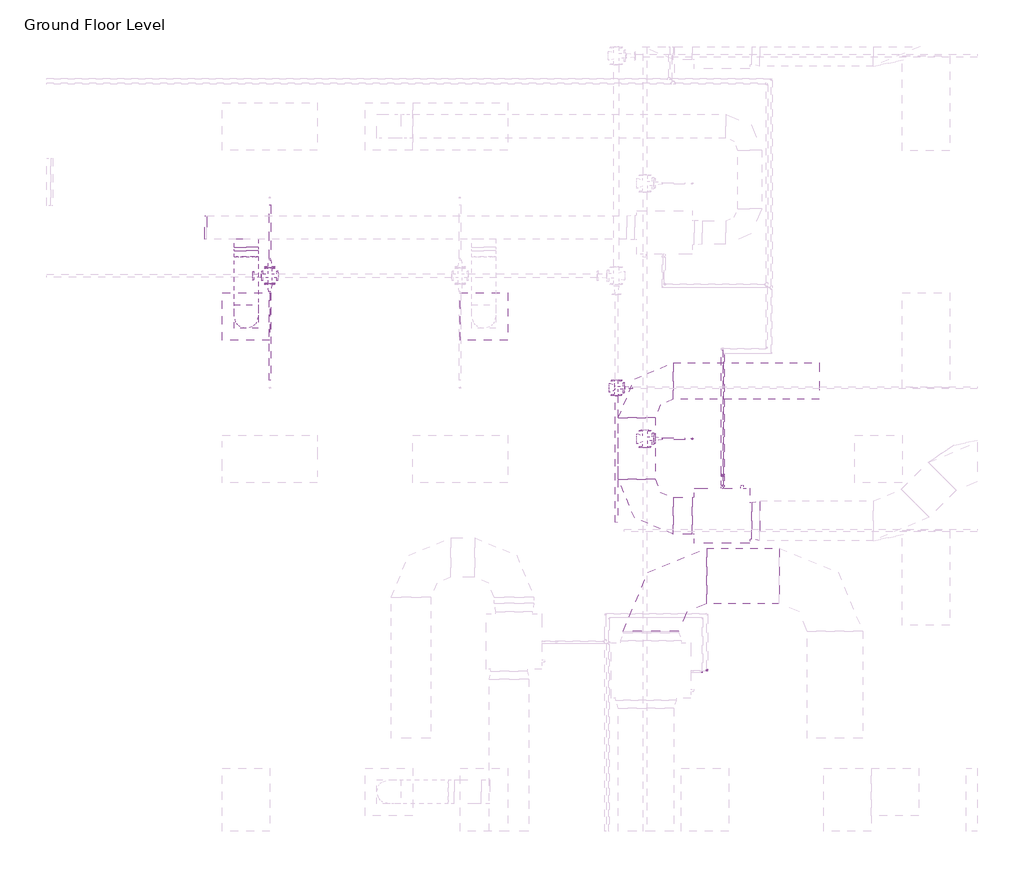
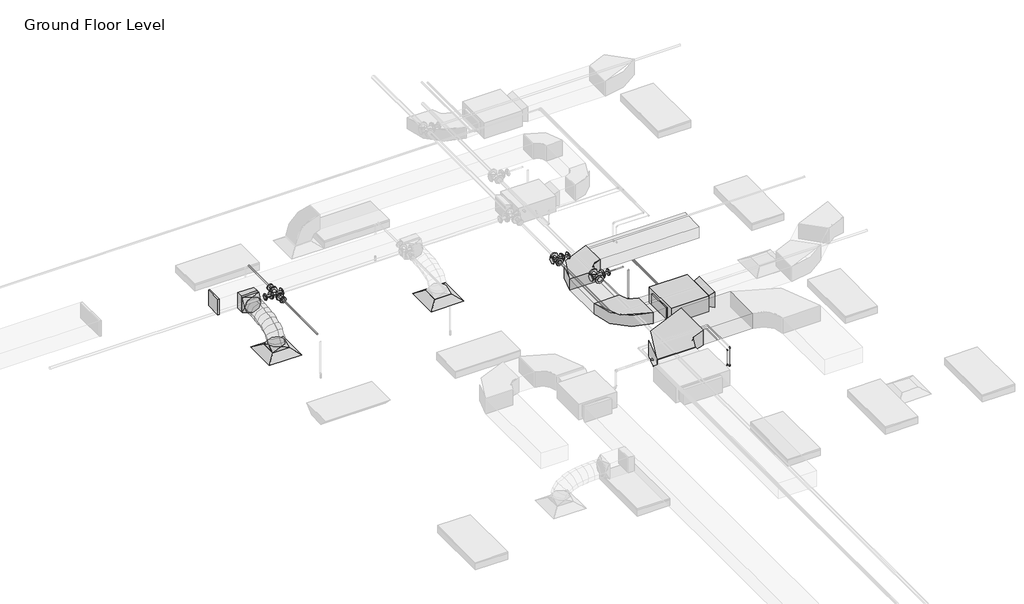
# One storey, part 34 of 74: 16 pipe fittings, 13 pipe segments, 8 duct fittings, 6 duct segments, 2 air terminals, 1 fire suppression terminal, 1 proxy.
"""IFC4 building model written with IfcOpenShell, lengths in millimetres."""

from ifc_helpers import new_model, si_unit, point, frame, frame_2d, origin, place, context, project, spatial, polyline, circle_curve, ellipse_curve, trimmed, segment, composite_curve, outline, extrude, transform, mapped, element, save
from ifc_brep_helpers import plane_surface, cylinder_surface, advanced_brep
from components import m_return_diffuser_600_x_600_face_300_x_300_connection_ff221211, fcu_daikin_iu_bad131e0, m_rectangular_elbow_radius_1_w_54c96895, m_rectangular_elbow_radius_1_w_8a62b27e, m_rectangular_endcap_standard_c319d4e7, m_rectangular_takeoff_standard_cb0ccb98, m_rectangular_transition_angle_45_degree_2b595dfe, m_rectangular_to_round_transition_angle_45_degree_641efff0, m_sprinkler_pendent_15_mm_pendent_06fcbd8e, m_cross_flanged_cs_class_150_standard_fc817054, m_elbow_generic_standard_a088f956, m_elbow_generic_standard_2a704253, m_reducer_flanged_cs_class_150_standard_ccf252ad, m_reducer_flanged_cs_class_150_standard_83138b42, m_reducer_flanged_cs_class_150_standard_564df86d, m_reducer_flanged_cs_class_150_standard_dc68ad9d, m_tee_round_base_flanged_cs_class_150_standard_7e5987a1, m_tee_round_base_flanged_cs_class_150_standard_ab36f383

model = new_model("IFC4")

# Units and contexts
model_context = context("Model", 3, world=origin())
ifc_project = project(units=[si_unit("LENGTHUNIT", "METRE", prefix="MILLI")], contexts=[model_context])

# Site, building, storey
site = spatial("IfcSite", under=ifc_project)
building = spatial("IfcBuilding", under=site)
storey = spatial("IfcBuildingStorey", under=building, Name="Ground Floor Level", Elevation=900.0)

# Air terminals
placement = place(None, origin())
m_return_diffuser_600_x_600_face_300_x_300_connection_shape = m_return_diffuser_600_x_600_face_300_x_300_connection_ff221211(model_context)
element("IfcAirTerminal", 1, ObjectType="M_Supply Diffuser : 600 x 600 Face 300 x 300 Connection", at=placement, inside=storey, context=model_context, shape_type="MappedRepresentation", body=[
    mapped(m_return_diffuser_600_x_600_face_300_x_300_connection_shape, transform((962.7672395, -3464.7846466, 3650.0), x_axis=(1.0, 0.0, 0.0), y_axis=(0.0, 1.0, 0.0), z_axis=(0.0, 0.0, 1.0))),
])
element("IfcAirTerminal", 2, ObjectType="M_Supply Diffuser : 600 x 600 Face 300 x 300 Connection", at=placement, inside=storey, context=model_context, shape_type="MappedRepresentation", body=[
    mapped(m_return_diffuser_600_x_600_face_300_x_300_connection_shape, transform((3962.7672395, -3464.7846466, 3650.0), x_axis=(1.0, 0.0, 0.0), y_axis=(0.0, 1.0, 0.0), z_axis=(0.0, 0.0, 1.0))),
])

# Proxy
fcu_daikin_iu_shape = fcu_daikin_iu_bad131e0(model_context)
element("IfcBuildingElementProxy", 3, Name="FCU-DAIKIN IU : 4.5kW, 230V/50Hz/1Ph", ObjectType="FCU-DAIKIN IU : 4.5kW, 230V/50Hz/1Ph", at=placement, inside=storey, context=model_context, shape_type="MappedRepresentation", body=[
    mapped(fcu_daikin_iu_shape, transform((6968.8139492, -5980.3220473, 3934.0932729), x_axis=(0.0, 1.0, 0.0), y_axis=(-1.0, 0.0, 0.0), z_axis=(0.0, 0.0, 1.0))),
])

# Duct fittings
m_rectangular_elbow_radius_1_w_shape = m_rectangular_elbow_radius_1_w_54c96895(model_context)
element("IfcDuctFitting", 4, ObjectType="M_Rectangular Elbow - Radius : 1 W", at=placement, inside=storey, context=model_context, shape_type="MappedRepresentation", body=[
    mapped(m_rectangular_elbow_radius_1_w_shape, transform((5893.4139492, -5980.3220473, 4075.2932729), x_axis=(0.0, -1.0, 0.0), y_axis=(1.0, 0.0, 0.0), z_axis=(0.0, 0.0, 1.0))),
])
element("IfcDuctFitting", 5, ObjectType="M_Rectangular Elbow - Radius : 1 W", at=placement, inside=storey, context=model_context, shape_type="MappedRepresentation", body=[
    mapped(m_rectangular_elbow_radius_1_w_shape, transform((5893.4139492, -4280.3216051, 4075.2932729), x_axis=(-1.0, 0.0, 0.0), y_axis=(0.0, -1.0, 0.0), z_axis=(0.0, 0.0, 1.0))),
])
m_rectangular_elbow_radius_1_w_2_shape = m_rectangular_elbow_radius_1_w_8a62b27e(model_context)
element("IfcDuctFitting", 6, ObjectType="M_Rectangular Elbow - Radius : 1 W", at=placement, inside=storey, context=model_context, shape_type="MappedRepresentation", body=[
    mapped(m_rectangular_elbow_radius_1_w_2_shape, transform((6073.4139492, -6738.5358641, 4075.2875), x_axis=(-1.0, 0.0, 0.0), y_axis=(0.0, -1.0, 0.0), z_axis=(0.0, 0.0, 1.0))),
])
m_rectangular_endcap_standard_shape = m_rectangular_endcap_standard_c319d4e7(model_context)
element("IfcDuctFitting", 7, ObjectType="M_Rectangular Endcap : Standard", at=placement, inside=storey, context=model_context, shape_type="MappedRepresentation", body=[
    mapped(m_rectangular_endcap_standard_shape, transform((468.0139492, -2341.7438478, 4099.9874667), x_axis=(-0.9999999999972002, 0.0, -2.3663212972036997e-06), y_axis=(0.0, -1.0, 0.0), z_axis=(-2.3663212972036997e-06, 0.0, 0.9999999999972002))),
])
m_rectangular_takeoff_standard_shape = m_rectangular_takeoff_standard_cb0ccb98(model_context)
element("IfcDuctFitting", 8, ObjectType="M_Rectangular Takeoff : Standard", at=placement, inside=storey, context=model_context, shape_type="MappedRepresentation", body=[
    mapped(m_rectangular_takeoff_standard_shape, transform((962.7672395, -2491.7438478, 4099.9886375), x_axis=(0.0, -1.0, 0.0), y_axis=(-1.0, 0.0, 0.0), z_axis=(0.0, 0.0, -1.0))),
])
m_rectangular_transition_angle_45_degree_shape = m_rectangular_transition_angle_45_degree_2b595dfe(model_context)
element("IfcDuctFitting", 9, ObjectType="M_Rectangular Transition - Angle : 45 Degree", at=placement, inside=storey, context=model_context, shape_type="MappedRepresentation", body=[
    mapped(m_rectangular_transition_angle_45_degree_shape, transform((7344.2139492, -6043.8220473, 4100.0057729), x_axis=(1.0, 0.0, 0.0), y_axis=(0.0, 1.0, 0.0), z_axis=(0.0, 0.0, 1.0))),
])
m_rectangular_to_round_transition_angle_45_degree_shape = m_rectangular_to_round_transition_angle_45_degree_641efff0(model_context)
element("IfcDuctFitting", 10, ObjectType="M_Rectangular to Round Transition - Angle : 45 Degree", at=placement, inside=storey, context=model_context, shape_type="MappedRepresentation", body=[
    mapped(m_rectangular_to_round_transition_angle_45_degree_shape, transform((962.7672395, -3464.7846466, 3751.6), x_axis=(0.0, 0.0, 1.0), y_axis=(-1.0, 0.0, 0.0), z_axis=(0.0, -1.0, 0.0))),
])
element("IfcDuctFitting", 11, ObjectType="M_Rectangular to Round Transition - Angle : 45 Degree", at=placement, inside=storey, context=model_context, shape_type="MappedRepresentation", body=[
    mapped(m_rectangular_to_round_transition_angle_45_degree_shape, transform((962.7672395, -2637.4373528, 4099.9886375), x_axis=(0.0, -1.0, 0.0), y_axis=(1.0, 0.0, 0.0), z_axis=(0.0, 0.0, 1.0))),
])

# Duct segments
element("IfcDuctSegment", 12, ObjectType="Flex - Round", at=placement, inside=storey, context=model_context, shape_type="AdvancedBrep", body=[
    advanced_brep(
    [(1112.7672395, -3464.7846466, 3826.6), (962.7672395, -3614.7846466, 3826.6), (812.7672395, -3464.7846466, 3826.6), (962.7672395, -3314.7846466, 3826.6), (1112.7672395, -3464.7846466, 3857.9381884), (962.7672395, -3614.7846466, 3883.5819935), (812.7672395, -3464.7846466, 3857.9381884), (962.7672395, -3314.7846466, 3832.2943832), (1112.7672395, -3447.768399, 3906.25078), (962.7672395, -3581.5056623, 3978.0678058), (812.7672395, -3447.768399, 3906.25078), (962.7672395, -3314.0311357, 3834.4337542), (1112.7672395, -3400.5836609, 3968.7107931), (962.7672395, -3504.7876153, 4079.6220458), (812.7672395, -3400.5836609, 3968.7107931), (962.7672395, -3296.3797065, 3857.7995403), (1112.7672395, -3329.0264393, 4016.0681252), (962.7672395, -3397.9574302, 4150.3234013), (812.7672395, -3329.0264393, 4016.0681252), (962.7672395, -3260.0954484, 3881.8128492), (1112.7672395, -3238.8927413, 4050.4108625), (962.7672395, -3282.4501545, 4194.3339779), (812.7672395, -3238.8927413, 4050.4108625), (962.7672395, -3195.3353281, 3906.4877471), (1112.7672395, -3135.978574, 4073.8270909), (962.7672395, -3162.5363225, 4221.6181678), (812.7672395, -3135.978574, 4073.8270909), (962.7672395, -3109.4208256, 3926.0360141), (1112.7672395, -3026.0799445, 4088.4048966), (962.7672395, -3041.2280867, 4237.7094321), (812.7672395, -3026.0799445, 4088.4048966), (962.7672395, -3010.9318022, 3939.1003612), (1112.7672395, -2914.9928597, 4096.2323656), (962.7672395, -2922.4960405, 4246.0755838), (812.7672395, -2914.9928597, 4096.2323656), (962.7672395, -2907.4896789, 3946.3891473), (1112.7672395, -2808.5133268, 4099.3975838), (962.7672395, -2811.2035581, 4249.3838721), (812.7672395, -2808.5133268, 4099.3975838), (962.7672395, -2805.8230955, 3949.4112955), (1112.7672395, -2712.4373528, 4099.9886375), (962.7672395, -2711.5145792, 3949.9914759), (812.7672395, -2712.4373528, 4099.9886375), (962.7672395, -2713.3601263, 4249.9857991)],
    [
        (0, 1, circle_curve(frame((962.7672395, -3464.7846466, 3826.6), z_axis=(0.0, 0.0, -1.0), x_axis=(1.0, 0.0, 0.0)), 150.0)),
        (1, 2, circle_curve(frame((962.7672395, -3464.7846466, 3826.6), z_axis=(0.0, 0.0, -1.0), x_axis=(1.0, 0.0, 0.0)), 150.0)),
        (2, 3, circle_curve(frame((962.7672395, -3464.7846466, 3826.6), z_axis=(0.0, 0.0, -1.0), x_axis=(1.0, 0.0, 0.0)), 150.0)),
        (3, 0, circle_curve(frame((962.7672395, -3464.7846466, 3826.6), z_axis=(0.0, 0.0, -1.0), x_axis=(1.0, 0.0, 0.0)), 150.0)),
        (0, 4),
        (4, 5, ellipse_curve(frame((962.7672395, -3464.7846466, 3857.9381884), z_axis=(0.0, -0.1685138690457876, -0.985699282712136), x_axis=(0.0, 0.9856992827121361, -0.16851386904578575)), 152.1762292, 150.0)),
        (5, 1),
        (5, 6, ellipse_curve(frame((962.7672395, -3464.7846466, 3857.9381884), z_axis=(0.0, -0.1685138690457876, -0.985699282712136), x_axis=(0.0, 0.9856992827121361, -0.16851386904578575)), 152.1762292, 150.0)),
        (6, 2),
        (6, 7, ellipse_curve(frame((962.7672395, -3464.7846466, 3857.9381884), z_axis=(0.0, -0.1685138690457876, -0.985699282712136), x_axis=(0.0, 0.9856992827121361, -0.16851386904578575)), 152.1762292, 150.0)),
        (7, 3),
        (7, 4, ellipse_curve(frame((962.7672395, -3464.7846466, 3857.9381884), z_axis=(0.0, -0.1685138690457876, -0.985699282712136), x_axis=(0.0, 0.9856992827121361, -0.16851386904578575)), 152.1762292, 150.0)),
        (4, 8),
        (8, 9, ellipse_curve(frame((962.7672395, -3447.768399, 3906.25078), z_axis=(0.0, -0.47310190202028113, -0.8810077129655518), x_axis=(0.0, 0.8810077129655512, -0.47310190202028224)), 151.800332, 150.0)),
        (9, 5),
        (9, 10, ellipse_curve(frame((962.7672395, -3447.768399, 3906.25078), z_axis=(0.0, -0.47310190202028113, -0.8810077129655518), x_axis=(0.0, 0.8810077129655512, -0.47310190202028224)), 151.800332, 150.0)),
        (10, 6),
        (10, 11, ellipse_curve(frame((962.7672395, -3447.768399, 3906.25078), z_axis=(0.0, -0.47310190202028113, -0.8810077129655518), x_axis=(0.0, 0.8810077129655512, -0.47310190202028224)), 151.800332, 150.0)),
        (11, 7),
        (11, 8, ellipse_curve(frame((962.7672395, -3447.768399, 3906.25078), z_axis=(0.0, -0.47310190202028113, -0.8810077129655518), x_axis=(0.0, 0.8810077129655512, -0.47310190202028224)), 151.800332, 150.0)),
        (8, 12),
        (12, 13, ellipse_curve(frame((962.7672395, -3400.5836609, 3968.7107931), z_axis=(0.0, -0.7288002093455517, -0.6847264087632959), x_axis=(0.0, 0.6847264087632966, -0.7288002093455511)), 152.1833437, 150.0)),
        (13, 9),
        (13, 14, ellipse_curve(frame((962.7672395, -3400.5836609, 3968.7107931), z_axis=(0.0, -0.7288002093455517, -0.6847264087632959), x_axis=(0.0, 0.6847264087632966, -0.7288002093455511)), 152.1833437, 150.0)),
        (14, 10),
        (14, 15, ellipse_curve(frame((962.7672395, -3400.5836609, 3968.7107931), z_axis=(0.0, -0.7288002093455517, -0.6847264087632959), x_axis=(0.0, 0.6847264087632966, -0.7288002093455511)), 152.1833437, 150.0)),
        (15, 11),
        (15, 12, ellipse_curve(frame((962.7672395, -3400.5836609, 3968.7107931), z_axis=(0.0, -0.7288002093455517, -0.6847264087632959), x_axis=(0.0, 0.6847264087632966, -0.7288002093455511)), 152.1833437, 150.0)),
        (12, 16),
        (16, 17, ellipse_curve(frame((962.7672395, -3329.0264393, 4016.0681252), z_axis=(0.0, -0.8895963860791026, -0.45674749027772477), x_axis=(0.0, 0.456747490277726, -0.889596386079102)), 150.9170655, 150.0)),
        (17, 13),
        (17, 18, ellipse_curve(frame((962.7672395, -3329.0264393, 4016.0681252), z_axis=(0.0, -0.8895963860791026, -0.45674749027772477), x_axis=(0.0, 0.456747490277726, -0.889596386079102)), 150.9170655, 150.0)),
        (18, 14),
        (18, 19, ellipse_curve(frame((962.7672395, -3329.0264393, 4016.0681252), z_axis=(0.0, -0.8895963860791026, -0.45674749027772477), x_axis=(0.0, 0.456747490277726, -0.889596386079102)), 150.9170655, 150.0)),
        (19, 15),
        (19, 16, ellipse_curve(frame((962.7672395, -3329.0264393, 4016.0681252), z_axis=(0.0, -0.8895963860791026, -0.45674749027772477), x_axis=(0.0, 0.456747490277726, -0.889596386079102)), 150.9170655, 150.0)),
        (16, 20),
        (20, 21, ellipse_curve(frame((962.7672395, -3238.8927413, 4050.4108625), z_axis=(0.0, -0.9571270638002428, -0.28966840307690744), x_axis=(0.0, 0.2896684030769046, -0.9571270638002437)), 150.3699152, 150.0)),
        (21, 17),
        (21, 22, ellipse_curve(frame((962.7672395, -3238.8927413, 4050.4108625), z_axis=(0.0, -0.9571270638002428, -0.28966840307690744), x_axis=(0.0, 0.2896684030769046, -0.9571270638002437)), 150.3699152, 150.0)),
        (22, 18),
        (22, 23, ellipse_curve(frame((962.7672395, -3238.8927413, 4050.4108625), z_axis=(0.0, -0.9571270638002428, -0.28966840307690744), x_axis=(0.0, 0.2896684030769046, -0.9571270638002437)), 150.3699152, 150.0)),
        (23, 19),
        (23, 20, ellipse_curve(frame((962.7672395, -3238.8927413, 4050.4108625), z_axis=(0.0, -0.9571270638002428, -0.28966840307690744), x_axis=(0.0, 0.2896684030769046, -0.9571270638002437)), 150.3699152, 150.0)),
        (20, 24),
        (24, 25, ellipse_curve(frame((962.7672395, -3135.978574, 4073.8270909), z_axis=(0.0, -0.9842351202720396, -0.17686499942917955), x_axis=(0.0, 0.176864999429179, -0.9842351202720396)), 150.1583045, 150.0)),
        (25, 21),
        (25, 26, ellipse_curve(frame((962.7672395, -3135.978574, 4073.8270909), z_axis=(0.0, -0.9842351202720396, -0.17686499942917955), x_axis=(0.0, 0.176864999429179, -0.9842351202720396)), 150.1583045, 150.0)),
        (26, 22),
        (26, 27, ellipse_curve(frame((962.7672395, -3135.978574, 4073.8270909), z_axis=(0.0, -0.9842351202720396, -0.17686499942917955), x_axis=(0.0, 0.176864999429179, -0.9842351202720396)), 150.1583045, 150.0)),
        (27, 23),
        (27, 24, ellipse_curve(frame((962.7672395, -3135.978574, 4073.8270909), z_axis=(0.0, -0.9842351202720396, -0.17686499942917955), x_axis=(0.0, 0.176864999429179, -0.9842351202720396)), 150.1583045, 150.0)),
        (24, 28),
        (28, 29, ellipse_curve(frame((962.7672395, -3026.0799445, 4088.4048966), z_axis=(0.0, -0.9948925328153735, -0.10093982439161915), x_axis=(0.0, 0.10093982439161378, -0.9948925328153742)), 150.0710183, 150.0)),
        (29, 25),
        (29, 30, ellipse_curve(frame((962.7672395, -3026.0799445, 4088.4048966), z_axis=(0.0, -0.9948925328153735, -0.10093982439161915), x_axis=(0.0, 0.10093982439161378, -0.9948925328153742)), 150.0710183, 150.0)),
        (30, 26),
        (30, 31, ellipse_curve(frame((962.7672395, -3026.0799445, 4088.4048966), z_axis=(0.0, -0.9948925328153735, -0.10093982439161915), x_axis=(0.0, 0.10093982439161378, -0.9948925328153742)), 150.0710183, 150.0)),
        (31, 27),
        (31, 28, ellipse_curve(frame((962.7672395, -3026.0799445, 4088.4048966), z_axis=(0.0, -0.9948925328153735, -0.10093982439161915), x_axis=(0.0, 0.10093982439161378, -0.9948925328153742)), 150.0710183, 150.0)),
        (28, 32),
        (32, 33, ellipse_curve(frame((962.7672395, -2914.9928597, 4096.2323656), z_axis=(0.0, -0.998748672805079, -0.050010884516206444), x_axis=(0.0, 0.05001088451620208, -0.9987486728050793)), 150.030956, 150.0)),
        (33, 29),
        (33, 34, ellipse_curve(frame((962.7672395, -2914.9928597, 4096.2323656), z_axis=(0.0, -0.998748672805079, -0.050010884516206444), x_axis=(0.0, 0.05001088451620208, -0.9987486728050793)), 150.030956, 150.0)),
        (34, 30),
        (34, 35, ellipse_curve(frame((962.7672395, -2914.9928597, 4096.2323656), z_axis=(0.0, -0.998748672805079, -0.050010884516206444), x_axis=(0.0, 0.05001088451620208, -0.9987486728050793)), 150.030956, 150.0)),
        (35, 31),
        (35, 32, ellipse_curve(frame((962.7672395, -2914.9928597, 4096.2323656), z_axis=(0.0, -0.998748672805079, -0.050010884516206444), x_axis=(0.0, 0.05001088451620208, -0.9987486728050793)), 150.030956, 150.0)),
        (32, 36),
        (36, 37, ellipse_curve(frame((962.7672395, -2808.5133268, 4099.3975838), z_axis=(0.0, -0.9998391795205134, -0.017933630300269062), x_axis=(0.0, 0.017933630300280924, -0.9998391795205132)), 150.0104131, 150.0)),
        (37, 33),
        (37, 38, ellipse_curve(frame((962.7672395, -2808.5133268, 4099.3975838), z_axis=(0.0, -0.9998391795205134, -0.017933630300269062), x_axis=(0.0, 0.017933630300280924, -0.9998391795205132)), 150.0104131, 150.0)),
        (38, 34),
        (38, 39, ellipse_curve(frame((962.7672395, -2808.5133268, 4099.3975838), z_axis=(0.0, -0.9998391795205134, -0.017933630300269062), x_axis=(0.0, 0.017933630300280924, -0.9998391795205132)), 150.0104131, 150.0)),
        (39, 35),
        (39, 36, ellipse_curve(frame((962.7672395, -2808.5133268, 4099.3975838), z_axis=(0.0, -0.9998391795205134, -0.017933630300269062), x_axis=(0.0, 0.017933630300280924, -0.9998391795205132)), 150.0104131, 150.0)),
        (40, 41, circle_curve(frame((962.7672395, -2712.4373528, 4099.9886375), z_axis=(0.0, 0.9999810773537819, 0.006151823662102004), x_axis=(1.0, 0.0, 0.0)), 150.0)),
        (41, 42, circle_curve(frame((962.7672395, -2712.4373528, 4099.9886375), z_axis=(0.0, 0.9999810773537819, 0.006151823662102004), x_axis=(1.0, 0.0, 0.0)), 150.0)),
        (42, 43, circle_curve(frame((962.7672395, -2712.4373528, 4099.9886375), z_axis=(0.0, 0.9999810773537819, 0.006151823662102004), x_axis=(1.0, 0.0, 0.0)), 150.0)),
        (43, 40, circle_curve(frame((962.7672395, -2712.4373528, 4099.9886375), z_axis=(0.0, 0.9999810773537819, 0.006151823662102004), x_axis=(1.0, 0.0, 0.0)), 150.0)),
        (36, 40),
        (43, 37),
        (42, 38),
        (41, 39),
    ],
    [
        plane_surface(frame((962.7672395, -3614.7846466, 3826.6), z_axis=(0.0, 0.0, -1.0), x_axis=(1.0, 0.0, 0.0))),
        cylinder_surface(frame((962.7672395, -3464.7846466, 3826.6), z_axis=(0.0, 0.0, -1.0), x_axis=(1.0, 0.0, 0.0)), 150.0),
        cylinder_surface(frame((962.7672395, -3464.7846466, 3857.9381884), z_axis=(0.0, -0.3322079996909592, -0.9432061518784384), x_axis=(1.0, 0.0, 0.0)), 150.0),
        cylinder_surface(frame((962.7672395, -3447.768399, 3906.25078), z_axis=(0.0, -0.6027739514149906, -0.79791200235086), x_axis=(1.0, 0.0, 0.0)), 150.0),
        cylinder_surface(frame((962.7672395, -3400.5836609, 3968.7107931), z_axis=(0.0, -0.8339145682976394, -0.5518935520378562), x_axis=(1.0, 0.0, 0.0)), 150.0),
        cylinder_surface(frame((962.7672395, -3329.0264393, 4016.0681252), z_axis=(0.0, -0.9344667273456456, -0.35605046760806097), x_axis=(1.0, 0.0, 0.0)), 150.0),
        cylinder_surface(frame((962.7672395, -3238.8927413, 4050.4108625), z_axis=(0.0, -0.9750782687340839, -0.22186114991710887), x_axis=(1.0, 0.0, 0.0)), 150.0),
        cylinder_surface(frame((962.7672395, -3135.978574, 4073.8270909), z_axis=(0.0, -0.9913167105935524, -0.13149592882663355), x_axis=(1.0, 0.0, 0.0)), 150.0),
        cylinder_surface(frame((962.7672395, -3026.0799445, 4088.4048966), z_axis=(0.0, -0.9975267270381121, -0.07028818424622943), x_axis=(1.0, 0.0, 0.0)), 150.0),
        cylinder_surface(frame((962.7672395, -2914.9928597, 4096.2323656), z_axis=(0.0, -0.9995584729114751, -0.029712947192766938), x_axis=(1.0, 0.0, 0.0)), 150.0),
        plane_surface(frame((962.7672395, -2713.3601263, 4249.9857991), z_axis=(0.0, 0.999981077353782, 0.006151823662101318), x_axis=(1.0, 0.0, 0.0))),
        cylinder_surface(frame((962.7672395, -2808.5133268, 4099.3975838), z_axis=(0.0, -0.9999810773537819, -0.006151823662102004), x_axis=(1.0, 0.0, 0.0)), 150.0),
    ],
    [
        (0, [[1, 2, 3, 4]]),
        (1, [[-1, 5, 6, 7]]),
        (1, [[-2, -7, 8, 9]]),
        (1, [[-3, -9, 10, 11]]),
        (1, [[-4, -11, 12, -5]]),
        (2, [[-6, 13, 14, 15]]),
        (2, [[-8, -15, 16, 17]]),
        (2, [[-10, -17, 18, 19]]),
        (2, [[-12, -19, 20, -13]]),
        (3, [[-14, 21, 22, 23]]),
        (3, [[-16, -23, 24, 25]]),
        (3, [[-18, -25, 26, 27]]),
        (3, [[-20, -27, 28, -21]]),
        (4, [[-22, 29, 30, 31]]),
        (4, [[-24, -31, 32, 33]]),
        (4, [[-26, -33, 34, 35]]),
        (4, [[-28, -35, 36, -29]]),
        (5, [[-30, 37, 38, 39]]),
        (5, [[-32, -39, 40, 41]]),
        (5, [[-34, -41, 42, 43]]),
        (5, [[-36, -43, 44, -37]]),
        (6, [[-38, 45, 46, 47]]),
        (6, [[-40, -47, 48, 49]]),
        (6, [[-42, -49, 50, 51]]),
        (6, [[-44, -51, 52, -45]]),
        (7, [[-46, 53, 54, 55]]),
        (7, [[-48, -55, 56, 57]]),
        (7, [[-50, -57, 58, 59]]),
        (7, [[-52, -59, 60, -53]]),
        (8, [[-54, 61, 62, 63]]),
        (8, [[-56, -63, 64, 65]]),
        (8, [[-58, -65, 66, 67]]),
        (8, [[-60, -67, 68, -61]]),
        (9, [[-62, 69, 70, 71]]),
        (9, [[-64, -71, 72, 73]]),
        (9, [[-66, -73, 74, 75]]),
        (9, [[-68, -75, 76, -69]]),
        (10, [[77, 78, 79, 80]]),
        (11, [[-70, 81, -80, 82]]),
        (11, [[-72, -82, -79, 83]]),
        (11, [[-74, -83, -78, 84]]),
        (11, [[-76, -84, -77, -81]]),
    ],
),
])
element("IfcDuctSegment", 13, ObjectType="Radius Elbows / Taps", at=placement, inside=storey, context=model_context, shape_type="SweptSolid", body=[
    extrude(outline(polyline([(6593.4139492, -5749.3845473), (6593.4139492, -6211.2595473), (6355.2889492, -6211.2595473), (6355.2889492, -5749.3845473), (6593.4139492, -5749.3845473)])), frame((0.0, 0.0, 3968.1432729), z_axis=(0.0, 0.0, 1.0), x_axis=(1.0, 0.0, 0.0)), (0.0, 0.0, 1.0), 214.3),
])
element("IfcDuctSegment", 14, ObjectType="Radius Elbows / Taps", at=placement, inside=storey, context=model_context, shape_type="SweptSolid", body=[
    extrude(outline(polyline([(6124.3514492, -5518.4470473), (5662.4764492, -5518.4470473), (5662.4764492, -4742.1966051), (6124.3514492, -4742.1966051), (6124.3514492, -5518.4470473)])), frame((0.0, 0.0, 3968.1432729), z_axis=(0.0, 0.0, 1.0), x_axis=(1.0, 0.0, 0.0)), (0.0, 0.0, 1.0), 214.3),
])
element("IfcDuctSegment", 15, ObjectType="Radius Elbows / Taps", at=placement, inside=storey, context=model_context, shape_type="SweptSolid", body=[
    extrude(outline(polyline([(6355.2889492, -4511.2591051), (6355.2889492, -4049.3841051), (8193.4139492, -4049.3841051), (8193.4139492, -4511.2591051), (6355.2889492, -4511.2591051)])), frame((0.0, 0.0, 3968.1432729), z_axis=(0.0, 0.0, 1.0), x_axis=(1.0, 0.0, 0.0)), (0.0, 0.0, 1.0), 214.3),
])
element("IfcDuctSegment", 16, ObjectType="Radius Elbows / Taps", at=placement, inside=storey, context=model_context, shape_type="SweptSolid", body=[
    extrude(outline(polyline([(6773.4139492, -7088.5358641), (6773.4139492, -6388.5358641), (7693.4139492, -6388.5358641), (7693.4139492, -7088.5358641), (6773.4139492, -7088.5358641)])), frame((0.0, 0.0, 3925.2875), z_axis=(0.0, 0.0, 1.0), x_axis=(1.0, 0.0, 0.0)), (0.0, 0.0, 1.0), 300.0),
])
element("IfcDuctSegment", 17, ObjectType="Radius Elbows / Taps", at=placement, inside=storey, context=model_context, shape_type="SweptSolid", body=[
    extrude(outline(polyline([(812.7672395, -2593.3438478), (1112.7672395, -2593.3438478), (1112.7672395, -2637.4373528), (812.7672395, -2637.4373528), (812.7672395, -2593.3438478)])), frame((0.0, 0.0, 3949.9886375), z_axis=(0.0, 0.0, 1.0), x_axis=(1.0, 0.0, 0.0)), (0.0, 0.0, 1.0), 300.0),
])

# Fire suppression terminal
m_sprinkler_pendent_15_mm_pendent_shape = m_sprinkler_pendent_15_mm_pendent_06fcbd8e(model_context)
element("IfcFireSuppressionTerminal", 18, ObjectType="M_Sprinkler - Pendent : 15 mm Pendent", at=placement, inside=storey, context=model_context, shape_type="MappedRepresentation", body=[
    mapped(m_sprinkler_pendent_15_mm_pendent_shape, transform((6592.5481019, -5008.8364761, 3650.0), x_axis=(1.0, 0.0, 0.0), y_axis=(0.0, 1.0, 0.0), z_axis=(0.0, 0.0, 1.0))),
])

# Pipe fittings
m_cross_flanged_cs_class_150_standard_shape = m_cross_flanged_cs_class_150_standard_fc817054(model_context)
element("IfcPipeFitting", 19, ObjectType="M_Cross - Flanged - CS - Class 150 : Standard", at=placement, inside=storey, context=model_context, shape_type="MappedRepresentation", body=[
    mapped(m_cross_flanged_cs_class_150_standard_shape, transform((1262.7672395, -2950.3491993, 4360.0), x_axis=(1.0, 0.0, 0.0), y_axis=(0.0, -1.0, 0.0), z_axis=(0.0, 0.0, -1.0))),
])
m_elbow_generic_standard_shape = m_elbow_generic_standard_a088f956(model_context)
element("IfcPipeFitting", 20, ObjectType="M_Elbow - Generic : Standard", at=placement, inside=storey, context=model_context, shape_type="MappedRepresentation", body=[
    mapped(m_elbow_generic_standard_shape, transform((6782.8951827, -7933.9358641, 4390.0), x_axis=(0.0, -1.0, 0.0), y_axis=(0.0, 0.0, -1.0), z_axis=(1.0, 0.0, 0.0))),
])
element("IfcPipeFitting", 21, ObjectType="M_Elbow - Generic : Standard", at=placement, inside=storey, context=model_context, shape_type="MappedRepresentation", body=[
    mapped(m_elbow_generic_standard_shape, transform((6782.8951827, -7933.9358641, 4034.0875), x_axis=(0.0, 0.0, -1.0), y_axis=(-1.0, 0.0, 0.0), z_axis=(0.0, 1.0, 0.0))),
])
element("IfcPipeFitting", 22, ObjectType="M_Elbow - Generic : Standard", at=placement, inside=storey, context=model_context, shape_type="MappedRepresentation", body=[
    mapped(m_elbow_generic_standard_shape, transform((6968.8139492, -5468.2940101, 4034.0932729), x_axis=(0.0, 1.0, 0.0), y_axis=(0.0, 0.0, -1.0), z_axis=(-1.0, 0.0, 0.0))),
])
element("IfcPipeFitting", 23, ObjectType="M_Elbow - Generic : Standard", at=placement, inside=storey, context=model_context, shape_type="MappedRepresentation", body=[
    mapped(m_elbow_generic_standard_shape, transform((6968.8139492, -5468.2940101, 3950.0), x_axis=(0.0, 0.0, -1.0), y_axis=(0.0, 1.0, 0.0), z_axis=(1.0, 0.0, 0.0))),
])
m_elbow_generic_standard_2_shape = m_elbow_generic_standard_2a704253(model_context)
element("IfcPipeFitting", 24, ObjectType="M_Elbow - Generic : Standard", at=placement, inside=storey, context=model_context, shape_type="MappedRepresentation", body=[
    mapped(m_elbow_generic_standard_2_shape, transform((6723.9904113, -7958.9358641, 4377.5), x_axis=(0.0, -1.0, 0.0), y_axis=(0.0, 0.0, -1.0), z_axis=(1.0, 0.0, 0.0))),
])
element("IfcPipeFitting", 25, ObjectType="M_Elbow - Generic : Standard", at=placement, inside=storey, context=model_context, shape_type="MappedRepresentation", body=[
    mapped(m_elbow_generic_standard_2_shape, transform((6723.9904113, -7958.9358641, 4084.8875), x_axis=(0.0, 0.0, -1.0), y_axis=(-1.0, 0.0, 0.0), z_axis=(0.0, 1.0, 0.0))),
])
element("IfcPipeFitting", 26, ObjectType="M_Elbow - Generic : Standard", at=placement, inside=storey, context=model_context, shape_type="MappedRepresentation", body=[
    mapped(m_elbow_generic_standard_2_shape, transform((6993.8139492, -5470.0183195, 4084.8932729), x_axis=(0.0, 1.0, 0.0), y_axis=(0.0, 0.0, -1.0), z_axis=(-1.0, 0.0, 0.0))),
])
element("IfcPipeFitting", 27, ObjectType="M_Elbow - Generic : Standard", at=placement, inside=storey, context=model_context, shape_type="MappedRepresentation", body=[
    mapped(m_elbow_generic_standard_2_shape, transform((6993.8139492, -5470.0183195, 3950.0), x_axis=(0.0, 0.0, -1.0), y_axis=(0.0, 1.0, 0.0), z_axis=(1.0, 0.0, 0.0))),
])
m_reducer_flanged_cs_class_150_standard_shape = m_reducer_flanged_cs_class_150_standard_ccf252ad(model_context)
element("IfcPipeFitting", 28, ObjectType="M_Reducer - Flanged - CS - Class 150 : Standard", at=placement, inside=storey, context=model_context, shape_type="MappedRepresentation", body=[
    mapped(m_reducer_flanged_cs_class_150_standard_shape, transform((5736.5780918, -4364.7846466, 4360.0), x_axis=(1.0, 0.0, 0.0), y_axis=(0.0, 0.0, 1.0), z_axis=(0.0, -1.0, 0.0))),
])
m_reducer_flanged_cs_class_150_standard_2_shape = m_reducer_flanged_cs_class_150_standard_83138b42(model_context)
element("IfcPipeFitting", 29, ObjectType="M_Reducer - Flanged - CS - Class 150 : Standard", at=placement, inside=storey, context=model_context, shape_type="MappedRepresentation", body=[
    mapped(m_reducer_flanged_cs_class_150_standard_2_shape, transform((6109.3164057, -5008.8364761, 4291.2754753), x_axis=(1.0, 0.0, 0.0), y_axis=(0.0, 0.0, -1.0), z_axis=(0.0, 1.0, 0.0))),
])
m_reducer_flanged_cs_class_150_standard_3_shape = m_reducer_flanged_cs_class_150_standard_564df86d(model_context)
element("IfcPipeFitting", 30, ObjectType="M_Reducer - Flanged - CS - Class 150 : Standard", at=placement, inside=storey, context=model_context, shape_type="MappedRepresentation", body=[
    mapped(m_reducer_flanged_cs_class_150_standard_3_shape, transform((1160.7672395, -2950.3491993, 4360.0), x_axis=(-1.0, 0.0, 0.0), y_axis=(0.0, -1.0, 0.0), z_axis=(0.0, 0.0, 1.0))),
])
m_reducer_flanged_cs_class_150_standard_4_shape = m_reducer_flanged_cs_class_150_standard_dc68ad9d(model_context)
element("IfcPipeFitting", 31, ObjectType="M_Reducer - Flanged - CS - Class 150 : Standard", at=placement, inside=storey, context=model_context, shape_type="MappedRepresentation", body=[
    mapped(m_reducer_flanged_cs_class_150_standard_4_shape, transform((1262.7672395, -2848.3491993, 4360.0), x_axis=(0.0, 1.0, 0.0), y_axis=(-1.0, 0.0, 0.0), z_axis=(0.0, 0.0, 1.0))),
])
element("IfcPipeFitting", 32, ObjectType="M_Reducer - Flanged - CS - Class 150 : Standard", at=placement, inside=storey, context=model_context, shape_type="MappedRepresentation", body=[
    mapped(m_reducer_flanged_cs_class_150_standard_4_shape, transform((1262.7672395, -3052.3491993, 4360.0), x_axis=(0.0, -1.0, 0.0), y_axis=(1.0, 0.0, 0.0), z_axis=(0.0, 0.0, 1.0))),
])
m_tee_round_base_flanged_cs_class_150_standard_shape = m_tee_round_base_flanged_cs_class_150_standard_7e5987a1(model_context)
element("IfcPipeFitting", 33, ObjectType="M_Tee Round Base - Flanged - CS - Class 150 : Standard", at=placement, inside=storey, context=model_context, shape_type="MappedRepresentation", body=[
    mapped(m_tee_round_base_flanged_cs_class_150_standard_shape, transform((5635.869498, -4364.7846466, 4360.0), x_axis=(0.0, 1.0, 0.0), y_axis=(-1.0, 0.0, 0.0), z_axis=(0.0, 0.0, 1.0))),
])
m_tee_round_base_flanged_cs_class_150_standard_2_shape = m_tee_round_base_flanged_cs_class_150_standard_ab36f383(model_context)
element("IfcPipeFitting", 34, ObjectType="M_Tee Round Base - Flanged - CS - Class 150 : Standard", at=placement, inside=storey, context=model_context, shape_type="MappedRepresentation", body=[
    mapped(m_tee_round_base_flanged_cs_class_150_standard_2_shape, transform((5997.057812, -5008.8364761, 4291.0943441), x_axis=(0.0, 1.0, 0.0), y_axis=(-1.0, 0.0, 0.0), z_axis=(0.0, 0.0, 1.0))),
])

# Pipe segments
element("IfcPipeSegment", 35, ObjectType="Copper", at=placement, inside=storey, context=model_context, shape_type="SweptSolid", body=[
    extrude(outline(composite_curve([segment(trimmed(circle_curve(frame_2d((4034.0932729, 6968.8139492)), 6.5), [point((4034.0932729, 6962.3139492))], [point((4027.5932729, 6968.8139492))], False, "CARTESIAN"), True, "CONTINUOUS"), segment(trimmed(circle_curve(frame_2d((4034.0932729, 6968.8139492)), 6.5), [point((4027.5932729, 6968.8139492))], [point((4034.0932729, 6975.3139492))], False, "CARTESIAN"), True, "CONTINUOUS"), segment(trimmed(circle_curve(frame_2d((4034.0932729, 6968.8139492)), 6.5), [point((4034.0932729, 6975.3139492))], [point((4040.5932729, 6968.8139492))], False, "CARTESIAN"), True, "CONTINUOUS"), segment(trimmed(circle_curve(frame_2d((4034.0932729, 6968.8139492)), 6.5), [point((4040.5932729, 6968.8139492))], [point((4034.0932729, 6962.3139492))], False, "CARTESIAN"), True, "CONTINUOUS")], self_intersect=False)), frame((0.0, -5592.2220473, 0.0), z_axis=(0.0, 1.0, 0.0), x_axis=(0.0, 0.0, 1.0)), (0.0, 0.0, 1.0), 109.6405372),
])
element("IfcPipeSegment", 36, ObjectType="Copper", at=placement, inside=storey, context=model_context, shape_type="SweptSolid", body=[
    extrude(outline(composite_curve([segment(trimmed(circle_curve(frame_2d((4084.8932729, 6993.8139492)), 3.35), [point((4084.8932729, 6990.4639492))], [point((4081.5432729, 6993.8139492))], False, "CARTESIAN"), True, "CONTINUOUS"), segment(trimmed(circle_curve(frame_2d((4084.8932729, 6993.8139492)), 3.35), [point((4081.5432729, 6993.8139492))], [point((4084.8932729, 6997.1639492))], False, "CARTESIAN"), True, "CONTINUOUS"), segment(trimmed(circle_curve(frame_2d((4084.8932729, 6993.8139492)), 3.35), [point((4084.8932729, 6997.1639492))], [point((4088.2432729, 6993.8139492))], False, "CARTESIAN"), True, "CONTINUOUS"), segment(trimmed(circle_curve(frame_2d((4084.8932729, 6993.8139492)), 3.35), [point((4088.2432729, 6993.8139492))], [point((4084.8932729, 6990.4639492))], False, "CARTESIAN"), True, "CONTINUOUS")], self_intersect=False)), frame((0.0, -5592.2220473, 0.0), z_axis=(0.0, 1.0, 0.0), x_axis=(0.0, 0.0, 1.0)), (0.0, 0.0, 1.0), 111.0662279),
])
element("IfcPipeSegment", 37, ObjectType="Copper", at=placement, inside=storey, context=model_context, shape_type="SweptSolid", body=[
    extrude(outline(composite_curve([segment(trimmed(circle_curve(frame_2d((6723.9904113, -7958.9358641)), 3.35), [point((6727.3404113, -7958.9358641))], [point((6723.9904113, -7962.2858641))], False, "CARTESIAN"), True, "CONTINUOUS"), segment(trimmed(circle_curve(frame_2d((6723.9904113, -7958.9358641)), 3.35), [point((6723.9904113, -7962.2858641))], [point((6720.6404113, -7958.9358641))], False, "CARTESIAN"), True, "CONTINUOUS"), segment(trimmed(circle_curve(frame_2d((6723.9904113, -7958.9358641)), 3.35), [point((6720.6404113, -7958.9358641))], [point((6723.9904113, -7955.5858641))], False, "CARTESIAN"), True, "CONTINUOUS"), segment(trimmed(circle_curve(frame_2d((6723.9904113, -7958.9358641)), 3.35), [point((6723.9904113, -7955.5858641))], [point((6727.3404113, -7958.9358641))], False, "CARTESIAN"), True, "CONTINUOUS")], self_intersect=False)), frame((0.0, 0.0, 4096.025), z_axis=(0.0, 0.0, 1.0), x_axis=(1.0, 0.0, 0.0)), (0.0, 0.0, 1.0), 270.3375),
])
element("IfcPipeSegment", 38, ObjectType="Copper", at=placement, inside=storey, context=model_context, shape_type="SweptSolid", body=[
    extrude(outline(composite_curve([segment(trimmed(circle_curve(frame_2d((6782.8951827, -7933.9358641)), 6.5), [point((6789.3951827, -7933.9358641))], [point((6782.8951827, -7940.4358641))], False, "CARTESIAN"), True, "CONTINUOUS"), segment(trimmed(circle_curve(frame_2d((6782.8951827, -7933.9358641)), 6.5), [point((6782.8951827, -7940.4358641))], [point((6776.3951827, -7933.9358641))], False, "CARTESIAN"), True, "CONTINUOUS"), segment(trimmed(circle_curve(frame_2d((6782.8951827, -7933.9358641)), 6.5), [point((6776.3951827, -7933.9358641))], [point((6782.8951827, -7927.4358641))], False, "CARTESIAN"), True, "CONTINUOUS"), segment(trimmed(circle_curve(frame_2d((6782.8951827, -7933.9358641)), 6.5), [point((6782.8951827, -7927.4358641))], [point((6789.3951827, -7933.9358641))], False, "CARTESIAN"), True, "CONTINUOUS")], self_intersect=False)), frame((0.0, 0.0, 4048.375), z_axis=(0.0, 0.0, 1.0), x_axis=(1.0, 0.0, 0.0)), (0.0, 0.0, 1.0), 327.3375),
])
element("IfcPipeSegment", 39, ObjectType="Copper", at=placement, inside=storey, context=model_context, shape_type="SweptSolid", body=[
    extrude(outline(composite_curve([segment(trimmed(circle_curve(frame_2d((3950.0, 6993.8139492)), 3.35), [point((3950.0, 6990.4639492))], [point((3946.65, 6993.8139492))], False, "CARTESIAN"), True, "CONTINUOUS"), segment(trimmed(circle_curve(frame_2d((3950.0, 6993.8139492)), 3.35), [point((3946.65, 6993.8139492))], [point((3950.0, 6997.1639492))], False, "CARTESIAN"), True, "CONTINUOUS"), segment(trimmed(circle_curve(frame_2d((3950.0, 6993.8139492)), 3.35), [point((3950.0, 6997.1639492))], [point((3953.35, 6993.8139492))], False, "CARTESIAN"), True, "CONTINUOUS"), segment(trimmed(circle_curve(frame_2d((3950.0, 6993.8139492)), 3.35), [point((3953.35, 6993.8139492))], [point((3950.0, 6990.4639492))], False, "CARTESIAN"), True, "CONTINUOUS")], self_intersect=False)), frame((0.0, -5458.8808195, 0.0), z_axis=(0.0, 1.0, 0.0), x_axis=(0.0, 0.0, 1.0)), (0.0, 0.0, 1.0), 1515.8420737),
])
element("IfcPipeSegment", 40, ObjectType="Copper", at=placement, inside=storey, context=model_context, shape_type="SweptSolid", body=[
    extrude(outline(composite_curve([segment(trimmed(circle_curve(frame_2d((3950.0, 6968.8139492)), 6.5), [point((3950.0, 6962.3139492))], [point((3943.5, 6968.8139492))], False, "CARTESIAN"), True, "CONTINUOUS"), segment(trimmed(circle_curve(frame_2d((3950.0, 6968.8139492)), 6.5), [point((3943.5, 6968.8139492))], [point((3950.0, 6975.3139492))], False, "CARTESIAN"), True, "CONTINUOUS"), segment(trimmed(circle_curve(frame_2d((3950.0, 6968.8139492)), 6.5), [point((3950.0, 6975.3139492))], [point((3956.5, 6968.8139492))], False, "CARTESIAN"), True, "CONTINUOUS"), segment(trimmed(circle_curve(frame_2d((3950.0, 6968.8139492)), 6.5), [point((3956.5, 6968.8139492))], [point((3950.0, 6962.3139492))], False, "CARTESIAN"), True, "CONTINUOUS")], self_intersect=False)), frame((0.0, -5454.0065101, 0.0), z_axis=(0.0, 1.0, 0.0), x_axis=(0.0, 0.0, 1.0)), (0.0, 0.0, 1.0), 1569.809105),
])
element("IfcPipeSegment", 41, ObjectType="Copper", at=placement, inside=storey, context=model_context, shape_type="SweptSolid", body=[
    extrude(outline(composite_curve([segment(trimmed(circle_curve(frame_2d((6968.8139492, -5468.2940101)), 6.5), [point((6975.3139492, -5468.2940101))], [point((6968.8139492, -5474.7940101))], False, "CARTESIAN"), True, "CONTINUOUS"), segment(trimmed(circle_curve(frame_2d((6968.8139492, -5468.2940101)), 6.5), [point((6968.8139492, -5474.7940101))], [point((6962.3139492, -5468.2940101))], False, "CARTESIAN"), True, "CONTINUOUS"), segment(trimmed(circle_curve(frame_2d((6968.8139492, -5468.2940101)), 6.5), [point((6962.3139492, -5468.2940101))], [point((6968.8139492, -5461.7940101))], False, "CARTESIAN"), True, "CONTINUOUS"), segment(trimmed(circle_curve(frame_2d((6968.8139492, -5468.2940101)), 6.5), [point((6968.8139492, -5461.7940101))], [point((6975.3139492, -5468.2940101))], False, "CARTESIAN"), True, "CONTINUOUS")], self_intersect=False)), frame((0.0, 0.0, 3964.2875), z_axis=(0.0, 0.0, 1.0), x_axis=(1.0, 0.0, 0.0)), (0.0, 0.0, 1.0), 55.5182729),
])
element("IfcPipeSegment", 42, ObjectType="Copper", at=placement, inside=storey, context=model_context, shape_type="SweptSolid", body=[
    extrude(outline(composite_curve([segment(trimmed(circle_curve(frame_2d((6993.8139492, -5470.0183195)), 3.35), [point((6997.1639492, -5470.0183195))], [point((6993.8139492, -5473.3683195))], False, "CARTESIAN"), True, "CONTINUOUS"), segment(trimmed(circle_curve(frame_2d((6993.8139492, -5470.0183195)), 3.35), [point((6993.8139492, -5473.3683195))], [point((6990.4639492, -5470.0183195))], False, "CARTESIAN"), True, "CONTINUOUS"), segment(trimmed(circle_curve(frame_2d((6993.8139492, -5470.0183195)), 3.35), [point((6990.4639492, -5470.0183195))], [point((6993.8139492, -5466.6683195))], False, "CARTESIAN"), True, "CONTINUOUS"), segment(trimmed(circle_curve(frame_2d((6993.8139492, -5470.0183195)), 3.35), [point((6993.8139492, -5466.6683195))], [point((6997.1639492, -5470.0183195))], False, "CARTESIAN"), True, "CONTINUOUS")], self_intersect=False)), frame((0.0, 0.0, 3961.1375), z_axis=(0.0, 0.0, 1.0), x_axis=(1.0, 0.0, 0.0)), (0.0, 0.0, 1.0), 112.6182729),
])
element("IfcPipeSegment", 43, ObjectType="Steel flanged", at=placement, inside=storey, context=model_context, shape_type="SweptSolid", body=[
    extrude(outline(composite_curve([segment(trimmed(circle_curve(frame_2d((6592.5481019, -5008.8364761)), 10.668), [point((6581.8801019, -5008.8364761))], [point((6592.5481019, -4998.1684761))], False, "CARTESIAN"), True, "CONTINUOUS"), segment(trimmed(circle_curve(frame_2d((6592.5481019, -5008.8364761)), 10.668), [point((6592.5481019, -4998.1684761))], [point((6603.2161019, -5008.8364761))], False, "CARTESIAN"), True, "CONTINUOUS"), segment(trimmed(circle_curve(frame_2d((6592.5481019, -5008.8364761)), 10.668), [point((6603.2161019, -5008.8364761))], [point((6592.5481019, -5019.5044761))], False, "CARTESIAN"), True, "CONTINUOUS"), segment(trimmed(circle_curve(frame_2d((6592.5481019, -5008.8364761)), 10.668), [point((6592.5481019, -5019.5044761))], [point((6581.8801019, -5008.8364761))], False, "CARTESIAN"), True, "CONTINUOUS")], self_intersect=False)), frame((0.0, 0.0, 3650.0), z_axis=(0.0, 0.0, 1.0), x_axis=(1.0, 0.0, 0.0)), (0.0, 0.0, 1.0), 548.2668816),
])
element("IfcPipeSegment", 44, ObjectType="Steel flanged", at=placement, inside=storey, context=model_context, shape_type="SweptSolid", body=[
    extrude(outline(composite_curve([segment(trimmed(circle_curve(frame_2d((-5008.8364761, 4291.2754753)), 10.668), [point((-4998.1684761, 4291.2754753))], [point((-5008.8364761, 4280.6074753))], False, "CARTESIAN"), True, "CONTINUOUS"), segment(trimmed(circle_curve(frame_2d((-5008.8364761, 4291.2754753)), 10.668), [point((-5008.8364761, 4280.6074753))], [point((-5019.5044761, 4291.2754753))], False, "CARTESIAN"), True, "CONTINUOUS"), segment(trimmed(circle_curve(frame_2d((-5008.8364761, 4291.2754753)), 10.668), [point((-5019.5044761, 4291.2754753))], [point((-5008.8364761, 4301.9434753))], False, "CARTESIAN"), True, "CONTINUOUS"), segment(trimmed(circle_curve(frame_2d((-5008.8364761, 4291.2754753)), 10.668), [point((-5008.8364761, 4301.9434753))], [point((-4998.1684761, 4291.2754753))], False, "CARTESIAN"), True, "CONTINUOUS")], self_intersect=False)), frame((6223.3164057, 0.0, 0.0), z_axis=(1.0, 0.0, 0.0), x_axis=(0.0, 1.0, 0.0)), (0.0, 0.0, 1.0), 276.2231025),
])
element("IfcPipeSegment", 45, ObjectType="Steel flanged", at=placement, inside=storey, context=model_context, shape_type="SweptSolid", body=[
    extrude(outline(composite_curve([segment(trimmed(circle_curve(frame_2d((4360.0, 5635.869498)), 16.7005), [point((4360.0, 5619.168998))], [point((4343.2995, 5635.869498))], False, "CARTESIAN"), True, "CONTINUOUS"), segment(trimmed(circle_curve(frame_2d((4360.0, 5635.869498)), 16.7005), [point((4343.2995, 5635.869498))], [point((4360.0, 5652.569998))], False, "CARTESIAN"), True, "CONTINUOUS"), segment(trimmed(circle_curve(frame_2d((4360.0, 5635.869498)), 16.7005), [point((4360.0, 5652.569998))], [point((4376.7005, 5635.869498))], False, "CARTESIAN"), True, "CONTINUOUS"), segment(trimmed(circle_curve(frame_2d((4360.0, 5635.869498)), 16.7005), [point((4376.7005, 5635.869498))], [point((4360.0, 5619.168998))], False, "CARTESIAN"), True, "CONTINUOUS")], self_intersect=False)), frame((0.0, -6064.0760529, 0.0), z_axis=(0.0, 1.0, 0.0), x_axis=(0.0, 0.0, 1.0)), (0.0, 0.0, 1.0), 1598.5828125),
])
element("IfcPipeSegment", 46, ObjectType="Steel flanged", at=placement, inside=storey, context=model_context, shape_type="SweptSolid", body=[
    extrude(outline(composite_curve([segment(trimmed(circle_curve(frame_2d((4360.0, 1262.7672395)), 10.668), [point((4360.0, 1252.0992395))], [point((4349.332, 1262.7672395))], False, "CARTESIAN"), True, "CONTINUOUS"), segment(trimmed(circle_curve(frame_2d((4360.0, 1262.7672395)), 10.668), [point((4349.332, 1262.7672395))], [point((4360.0, 1273.4352395))], False, "CARTESIAN"), True, "CONTINUOUS"), segment(trimmed(circle_curve(frame_2d((4360.0, 1262.7672395)), 10.668), [point((4360.0, 1273.4352395))], [point((4370.668, 1262.7672395))], False, "CARTESIAN"), True, "CONTINUOUS"), segment(trimmed(circle_curve(frame_2d((4360.0, 1262.7672395)), 10.668), [point((4370.668, 1262.7672395))], [point((4360.0, 1252.0992395))], False, "CARTESIAN"), True, "CONTINUOUS")], self_intersect=False)), frame((0.0, -2734.3491993, 0.0), z_axis=(0.0, 1.0, 0.0), x_axis=(0.0, 0.0, 1.0)), (0.0, 0.0, 1.0), 676.5559589),
])
element("IfcPipeSegment", 47, ObjectType="Steel flanged", at=placement, inside=storey, context=model_context, shape_type="SweptSolid", body=[
    extrude(outline(composite_curve([segment(trimmed(circle_curve(frame_2d((4360.0, 1262.7672395)), 10.668), [point((4360.0, 1273.4352395))], [point((4370.668, 1262.7672395))], False, "CARTESIAN"), True, "CONTINUOUS"), segment(trimmed(circle_curve(frame_2d((4360.0, 1262.7672395)), 10.668), [point((4370.668, 1262.7672395))], [point((4360.0, 1252.0992395))], False, "CARTESIAN"), True, "CONTINUOUS"), segment(trimmed(circle_curve(frame_2d((4360.0, 1262.7672395)), 10.668), [point((4360.0, 1252.0992395))], [point((4349.332, 1262.7672395))], False, "CARTESIAN"), True, "CONTINUOUS"), segment(trimmed(circle_curve(frame_2d((4360.0, 1262.7672395)), 10.668), [point((4349.332, 1262.7672395))], [point((4360.0, 1273.4352395))], False, "CARTESIAN"), True, "CONTINUOUS")], self_intersect=False)), frame((0.0, -4271.7760529, 0.0), z_axis=(0.0, 1.0, 0.0), x_axis=(0.0, 0.0, 1.0)), (0.0, 0.0, 1.0), 1105.4268536),
])

save(model, "model.ifc")
